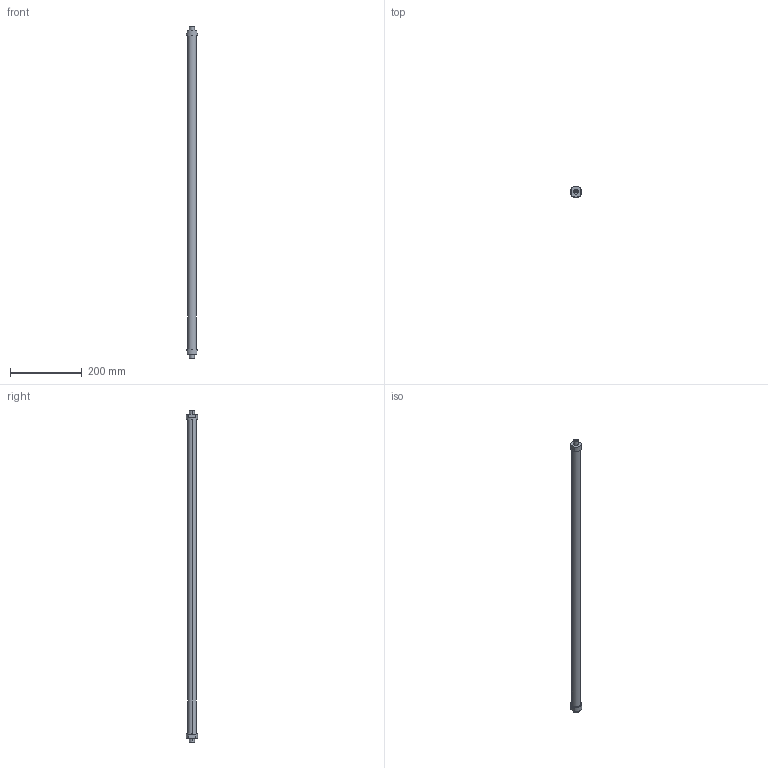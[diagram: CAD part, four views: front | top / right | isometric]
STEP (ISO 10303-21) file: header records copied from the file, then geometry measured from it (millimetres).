
FILE_DESCRIPTION(('STEP AP214'),'1');
FILE_NAME('ETT-R050G914.stp','2015-07-20T08:05:15',(' '),(' '),'Spatial InterOp 3D',' ',' ');
FILE_SCHEMA(('automotive_design'));
Length unit declared in the file: metre
Products named in the file (3): 1; 3; 2
Bounding box: 31 x 31 x 926 mm (x, y, z)
Volume: 427726.4 mm3; surface area: 92442.6 mm2
Topology: 1 solids, 7 shells, 32 faces, 84 edges, 64 vertices
Faces by surface type: cylinder 16, plane 16
Entity records: 1355 total; most frequent: DIRECTION 202, CARTESIAN_POINT 183, ORIENTED_EDGE 144, EDGE_CURVE 84, AXIS2_PLACEMENT_3D 83, VERTEX_POINT 64, CIRCLE 48, EDGE_LOOP 40
